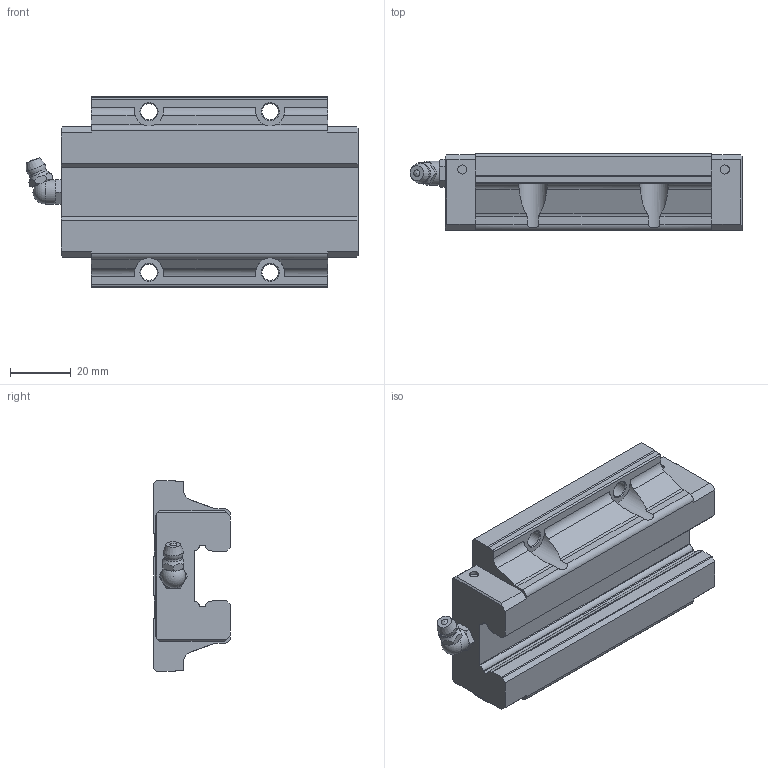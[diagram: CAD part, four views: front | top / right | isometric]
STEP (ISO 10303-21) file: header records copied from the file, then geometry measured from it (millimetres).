
FILE_DESCRIPTION(/* description */ ('STEP AP214'),/* implementation_level */ '2;1');
FILE_NAME(/* name */ 'SHS20LC1SS(GK) BLOCK(B-M6F1)',/* time_stamp */ '2023-05-26T08:31:31+02:00',/* author */ ('License CC BY-ND 4.0'),/* organization */ ('CADENAS'),/* preprocessor_version */ 'ST-DEVELOPER v19.3',/* originating_system */ 'PARTsolutions',/* authorisation */ ' ');
FILE_SCHEMA (('AUTOMOTIVE_DESIGN {1 0 10303 214 3 1 1}'));
Length unit declared in the file: millimetre
Products named in the file (3): SHS20LC1SS(GK) BLOCK(B-M6F1); B-M6F-SHS_grease_nipple_joint; SHS20LCSSB-M6F1 Slide25-55
Assembly tree (2 placements, depth 2):
  SHS20LC1SS(GK) BLOCK(B-M6F1)
    B-M6F-SHS_grease_nipple_joint
    SHS20LCSSB-M6F1 Slide25-55
Bounding box: 109.6 x 25.4 x 63 mm (x, y, z)
Volume: 104974.6 mm3; surface area: 21873.3 mm2
Topology: 2 solids, 2 shells, 174 faces, 480 edges, 315 vertices
Faces by surface type: plane 98, cylinder 50, cone 21, sphere 3, torus 2
Full cylindrical faces by diameter (mm): 3 x4, 4.917 x2, 5.4 x4, 6 x1, 8 x1
Entity records: 5417 total; most frequent: CARTESIAN_POINT 1090, DIRECTION 868, ORIENTED_EDGE 864, EDGE_CURVE 432, AXIS2_PLACEMENT_3D 303, VERTEX_POINT 301, LINE 262, VECTOR 262
